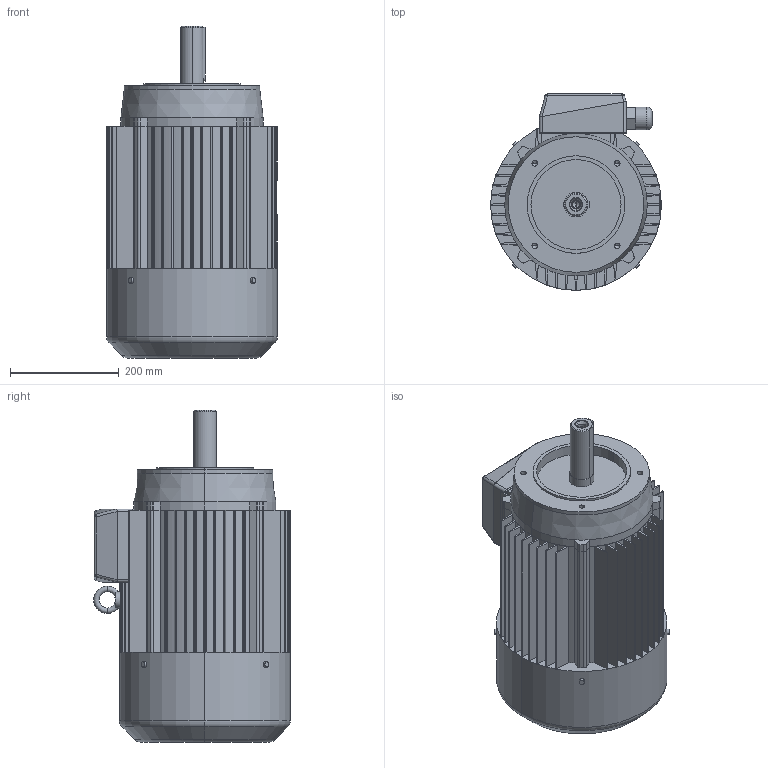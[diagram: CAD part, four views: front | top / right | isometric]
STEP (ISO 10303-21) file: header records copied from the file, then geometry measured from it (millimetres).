
FILE_DESCRIPTION (( 'STEP AP203' ), '1' );
FILE_NAME ('SKg 160M-B14-C2.STEP', '2010-02-09T12:44:23', ( 'INDUKTA' ), ( 'CANTONI MOTOR' ), 'SwSTEP 2.0', 'SolidWorks 2003064', '' );
FILE_SCHEMA (( 'CONFIG_CONTROL_DESIGN' ));
Length unit declared in the file: millimetre
Products named in the file (1): SKg 160M-B14-C2
Bounding box: 315 x 362.5 x 612 mm (x, y, z)
Volume: 33039349.9 mm3; surface area: 1491272.3 mm2
Topology: 12 solids, 12 shells, 508 faces, 1345 edges, 863 vertices
Faces by surface type: plane 243, cylinder 181, bspline 42, cone 22, torus 16, sphere 4
Entity records: 18782 total; most frequent: CARTESIAN_POINT 6196, ORIENTED_EDGE 2662, DIRECTION 2552, EDGE_CURVE 1331, VERTEX_POINT 863, AXIS2_PLACEMENT_3D 863, LINE 826, VECTOR 826
